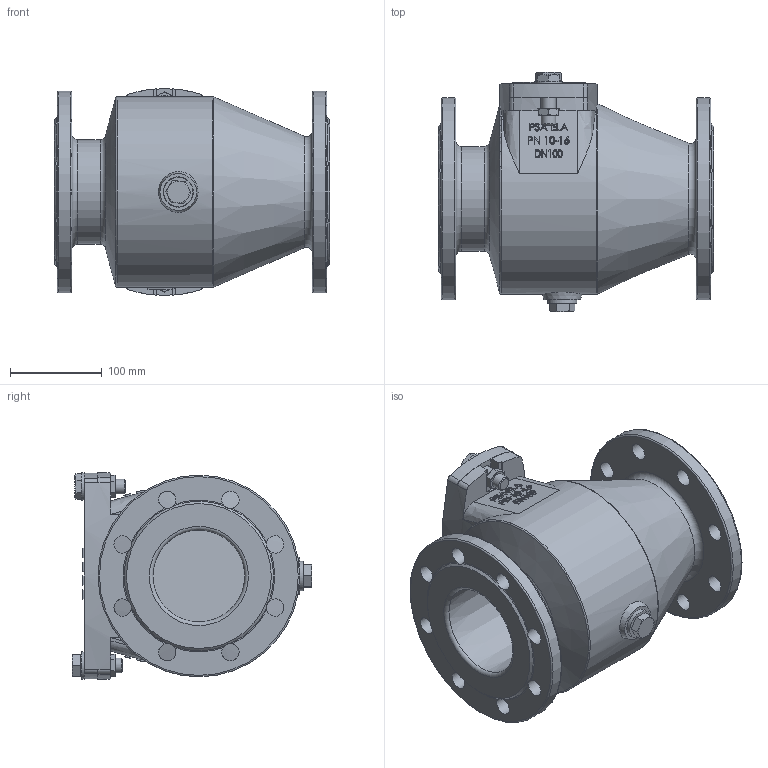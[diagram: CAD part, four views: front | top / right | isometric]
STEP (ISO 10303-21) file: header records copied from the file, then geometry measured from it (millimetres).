
FILE_DESCRIPTION(/* description */ ('PSA ELA DN100 PN16'),/* implementation_level */ '2;1');
FILE_NAME(/* name */ 'PSA ELA DN100 PN16',/* time_stamp */ '2024-10-16T12:05:21+02:00',/* author */ ('Christin-Michelle Fremgen'),/* organization */ ('PSA Wasserarmaturen GmbH'),/* preprocessor_version */ 'ST-DEVELOPER v18.104',/* originating_system */ 'Solid Edge',/* authorisation */ 'Unknown');
FILE_SCHEMA (('AUTOMOTIVE_DESIGN {1 0 10303 214 3 1 1}'));
Products named in the file (1): PSA ELA DN100 PN16
Bounding box: 300 x 261.35 x 225 mm (x, y, z)
Volume: 3188050.8 mm3; surface area: 618940.8 mm2
Topology: 1 solids, 2 shells, 1541 faces, 4041 edges, 2609 vertices
Faces by surface type: plane 743, bspline 454, cylinder 205, torus 76, cone 39, sphere 24
Full cylindrical faces by diameter (mm): 10 x2, 14.701 x2, 16 x4, 17 x1, 18 x2, 19 x16, 22.49 x1, 24.117 x5, 27 x1, 30 x2, 32 x1, 33 x1, 100 x1, 114 x1, 130 x2, 195 x1, 220 x2
Entity records: 100786 total; most frequent: CARTESIAN_POINT 55922, ORIENTED_EDGE 7754, DIRECTION 5567, EDGE_CURVE 3877, VERTEX_POINT 2552, LINE 2135, VECTOR 2135, EDGE_LOOP 1793
